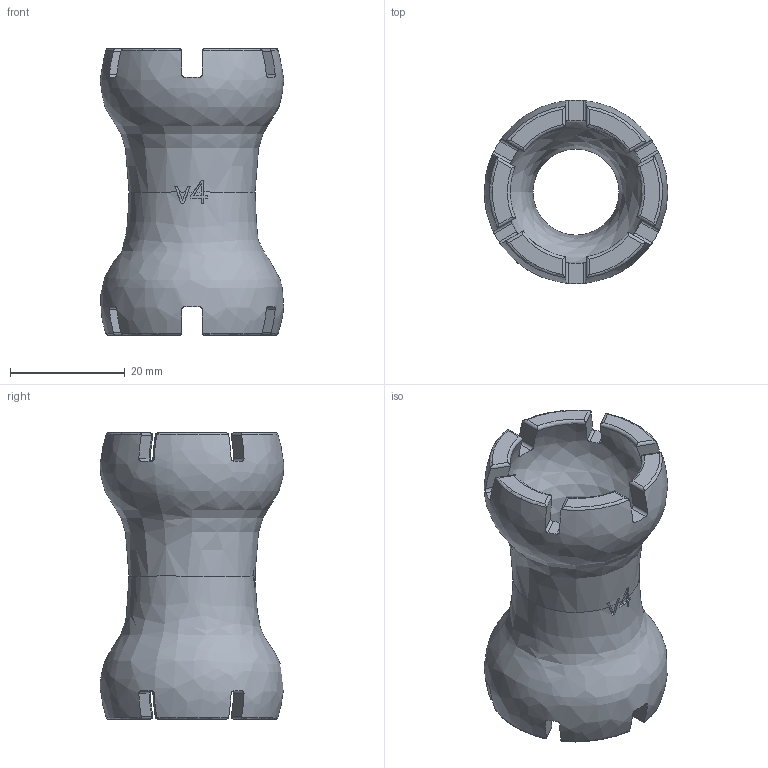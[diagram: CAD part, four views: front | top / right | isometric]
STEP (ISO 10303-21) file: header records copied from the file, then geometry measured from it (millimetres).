
FILE_DESCRIPTION(/* description */ ('STEP AP242','CAx-IF Rec.Pracs.---Representation and Presentation of Product Manufacturing Information (PMI)---4.0---2014-10-13','CAx-IF Rec.Pracs.---3D Tessellated Geometry---0.4---2014-09-14','2;1'),/* implementation_level */ '2;1');
FILE_NAME(/* name */ '64d2f2b92c0e820a7caaa80d',/* time_stamp */ '2023-08-09T01:58:17Z',/* author */ (''),/* organization */ (''),/* preprocessor_version */ 'ST-DEVELOPER v19.4',/* originating_system */ ' ',/* authorisation */ ' ');
FILE_SCHEMA (('AP242_MANAGED_MODEL_BASED_3D_ENGINEERING_MIM_LF { 1 0 10303 442 1 1 4 }'));
Length unit declared in the file: metre
Products named in the file (1): Rook Cable Tidy
Bounding box: 31.99 x 31.99 x 50 mm (x, y, z)
Volume: 12855.7 mm3; surface area: 8401.9 mm2
Topology: 1 solids, 1 shells, 156 faces, 461 edges, 306 vertices
Faces by surface type: plane 72, cylinder 48, torus 24, bspline 12
Entity records: 6281 total; most frequent: CARTESIAN_POINT 2516, ORIENTED_EDGE 908, DIRECTION 611, EDGE_CURVE 454, VERTEX_POINT 303, AXIS2_PLACEMENT_3D 233, B_SPLINE_CURVE_WITH_KNOTS 221, EDGE_LOOP 161
